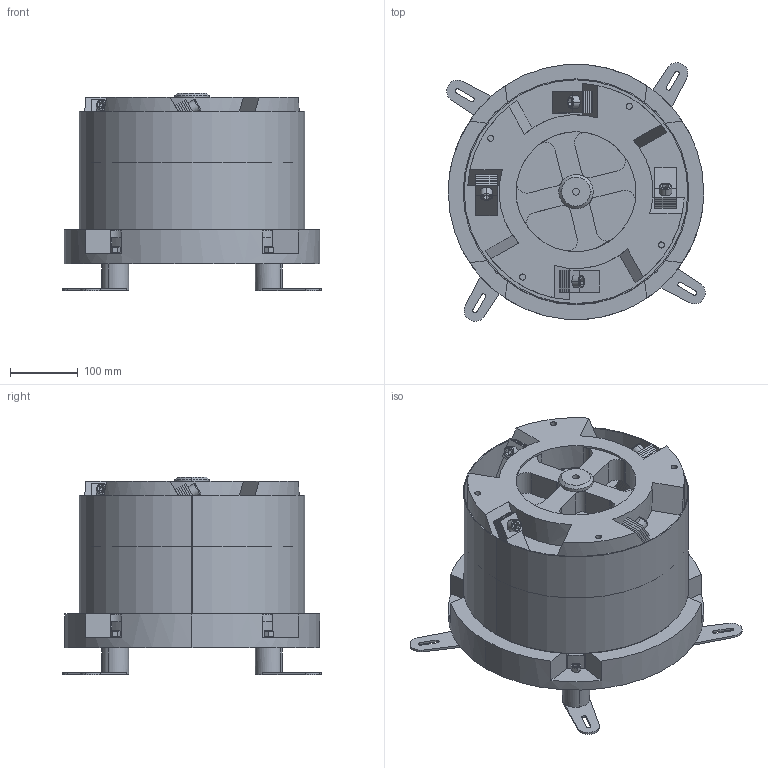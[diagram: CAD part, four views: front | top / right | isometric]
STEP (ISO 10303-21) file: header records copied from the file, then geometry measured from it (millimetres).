
FILE_DESCRIPTION (( 'STEP AP214' ), '1' );
FILE_NAME ('DA350 Ìú¸Ç.STEP', '2022-04-21T04:47:02', ( '' ), ( '' ), 'SwSTEP 2.0', 'SolidWorks 2018', '' );
FILE_SCHEMA (( 'AUTOMOTIVE_DESIGN' ));
Length unit declared in the file: millimetre
Products named in the file (1): DA350 沺裔
Bounding box: 381.83 x 381.83 x 292 mm (x, y, z)
Volume: 16410306.9 mm3; surface area: 1154311.4 mm2
Topology: 35 solids, 35 shells, 585 faces, 1431 edges, 937 vertices
Faces by surface type: plane 327, cylinder 181, cone 62, torus 15
Entity records: 18621 total; most frequent: CARTESIAN_POINT 4102, DIRECTION 2977, ORIENTED_EDGE 2862, EDGE_CURVE 1431, AXIS2_PLACEMENT_3D 1106, VERTEX_POINT 937, LINE 765, VECTOR 765
